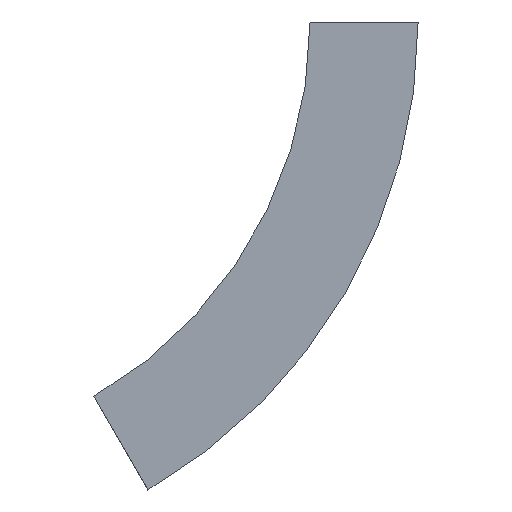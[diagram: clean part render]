
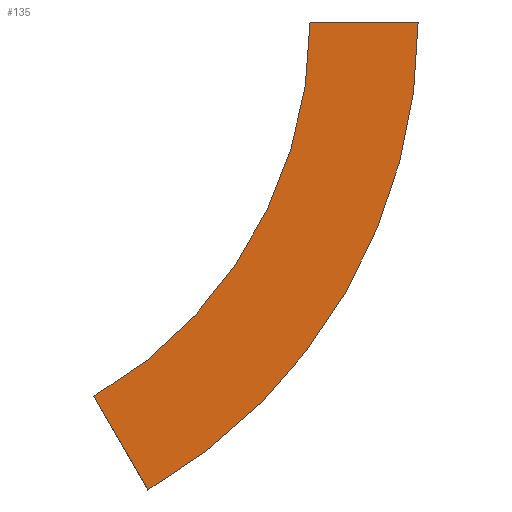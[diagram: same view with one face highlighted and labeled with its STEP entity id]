
A CAD part, left-side view. The second image highlights one B-rep face of the part: STEP entity #135.
In plain terms, the highlighted planar face has unit normal (-1, 0, 0) as drawn and (1, 0, 0) by its records, which use the part's own axes.
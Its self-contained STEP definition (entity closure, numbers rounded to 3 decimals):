
#12 = VERTEX_POINT ( 'NONE', #293 ) ;
#23 = CARTESIAN_POINT ( 'NONE',  ( 0., 300., 0. ) ) ;
#27 = CIRCLE ( 'NONE', #358, 375. ) ;
#29 = DIRECTION ( 'NONE',  ( 0., 0., 1. ) ) ;
#38 = CARTESIAN_POINT ( 'NONE',  ( 0., 0., 0. ) ) ;
#44 = VERTEX_POINT ( 'NONE', #535 ) ;
#53 = CARTESIAN_POINT ( 'NONE',  ( 0., 112.5, -324.76 ) ) ;
#80 = AXIS2_PLACEMENT_3D ( 'NONE', #148, #356, #248 ) ;
#97 = EDGE_LOOP ( 'NONE', ( #424, #534, #541, #402 ) ) ;
#98 = VECTOR ( 'NONE', #383, 1000. ) ;
#125 = EDGE_CURVE ( 'NONE', #219, #12, #285, .T. ) ;
#135 = ADVANCED_FACE ( 'NONE', ( #207 ), #346, .F. ) ;
#137 = CARTESIAN_POINT ( 'NONE',  ( 0., 112.5, -324.76 ) ) ;
#142 = VECTOR ( 'NONE', #202, 1000. ) ;
#148 = CARTESIAN_POINT ( 'NONE',  ( 0., 300., 0. ) ) ;
#202 = DIRECTION ( 'NONE',  ( 0., 1., 0. ) ) ;
#207 = FACE_OUTER_BOUND ( 'NONE', #97, .T. ) ;
#219 = VERTEX_POINT ( 'NONE', #38 ) ;
#234 = EDGE_CURVE ( 'NONE', #44, #258, #27, .T. ) ;
#247 = EDGE_CURVE ( 'NONE', #258, #12, #467, .T. ) ;
#248 = DIRECTION ( 'NONE',  ( 0., -1., 0. ) ) ;
#258 = VERTEX_POINT ( 'NONE', #137 ) ;
#285 = CIRCLE ( 'NONE', #80, 300. ) ;
#293 = CARTESIAN_POINT ( 'NONE',  ( 0., 150., -259.808 ) ) ;
#333 = CARTESIAN_POINT ( 'NONE',  ( 0., -75., 0. ) ) ;
#346 = PLANE ( 'NONE',  #548 ) ;
#356 = DIRECTION ( 'NONE',  ( 1., 0., 0. ) ) ;
#358 = AXIS2_PLACEMENT_3D ( 'NONE', #23, #476, #373 ) ;
#373 = DIRECTION ( 'NONE',  ( 0., -1., 0. ) ) ;
#383 = DIRECTION ( 'NONE',  ( 0., 0.5, 0.866 ) ) ;
#402 = ORIENTED_EDGE ( 'NONE', *, *, #247, .T. ) ;
#423 = LINE ( 'NONE', #333, #142 ) ;
#424 = ORIENTED_EDGE ( 'NONE', *, *, #125, .F. ) ;
#432 = CARTESIAN_POINT ( 'NONE',  ( 0., -75., 0. ) ) ;
#462 = EDGE_CURVE ( 'NONE', #44, #219, #423, .T. ) ;
#467 = LINE ( 'NONE', #53, #98 ) ;
#476 = DIRECTION ( 'NONE',  ( 1., 0., 0. ) ) ;
#518 = DIRECTION ( 'NONE',  ( -1., 0., 0. ) ) ;
#534 = ORIENTED_EDGE ( 'NONE', *, *, #462, .F. ) ;
#535 = CARTESIAN_POINT ( 'NONE',  ( 0., -75., 0. ) ) ;
#541 = ORIENTED_EDGE ( 'NONE', *, *, #234, .T. ) ;
#548 = AXIS2_PLACEMENT_3D ( 'NONE', #432, #518, #29 ) ;
